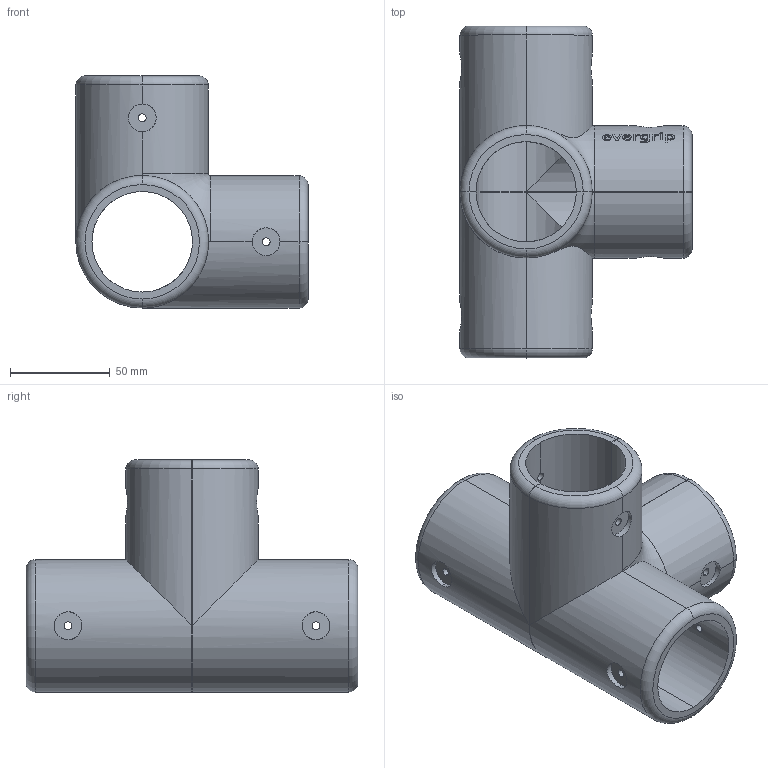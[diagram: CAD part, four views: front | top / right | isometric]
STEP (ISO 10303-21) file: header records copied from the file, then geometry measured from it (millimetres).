
FILE_DESCRIPTION (( 'STEP AP203' ), '1' );
FILE_NAME ('KIE_018.A19.STEP', '2025-02-25T09:27:59', ( '' ), ( '' ), 'SwSTEP 2.0', 'SolidWorks 2023', '' );
FILE_SCHEMA (( 'CONFIG_CONTROL_DESIGN' ));
Length unit declared in the file: millimetre
Products named in the file (1): KIE_018.A19
Bounding box: 116.3 x 166.3 x 116.3 mm (x, y, z)
Volume: 365533.7 mm3; surface area: 103413.5 mm2
Topology: 2 solids, 2 shells, 111 faces, 425 edges, 329 vertices
Faces by surface type: cylinder 69, plane 26, torus 16
Entity records: 8612 total; most frequent: CARTESIAN_POINT 5140, ORIENTED_EDGE 850, DIRECTION 540, EDGE_CURVE 425, VERTEX_POINT 329, AXIS2_PLACEMENT_3D 226, B_SPLINE_CURVE_WITH_KNOTS 223, EDGE_LOOP 142
